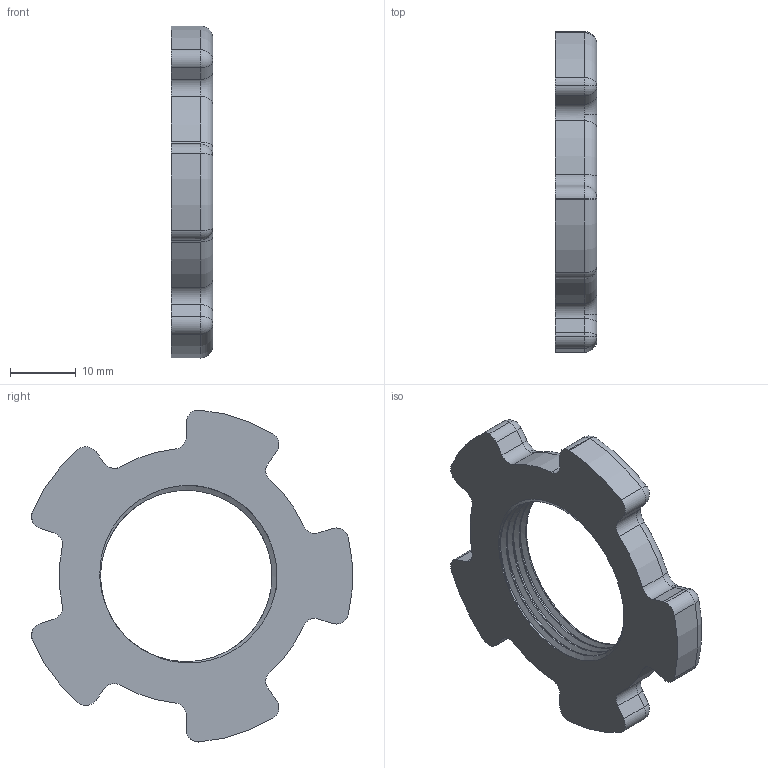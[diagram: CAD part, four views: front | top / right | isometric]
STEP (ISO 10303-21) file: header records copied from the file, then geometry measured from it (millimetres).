
FILE_DESCRIPTION (( 'STEP AP214' ), '1' );
FILE_NAME ('Nut.STEP', '2022-07-18T01:58:58', ( '' ), ( '' ), 'SwSTEP 2.0', 'SolidWorks 2021', '' );
FILE_SCHEMA (( 'AUTOMOTIVE_DESIGN' ));
Length unit declared in the file: inch
Products named in the file (1): Nut
Bounding box: 6.35 x 48.91 x 50.65 mm (x, y, z)
Volume: 6404.2 mm3; surface area: 3953.3 mm2
Topology: 1 solids, 1 shells, 108 faces, 269 edges, 157 vertices
Faces by surface type: cylinder 55, torus 22, sphere 16, plane 12, bspline 3
Entity records: 5441 total; most frequent: CARTESIAN_POINT 2860, DIRECTION 590, ORIENTED_EDGE 518, EDGE_CURVE 259, AXIS2_PLACEMENT_3D 253, VERTEX_POINT 153, CIRCLE 147, EDGE_LOOP 110
